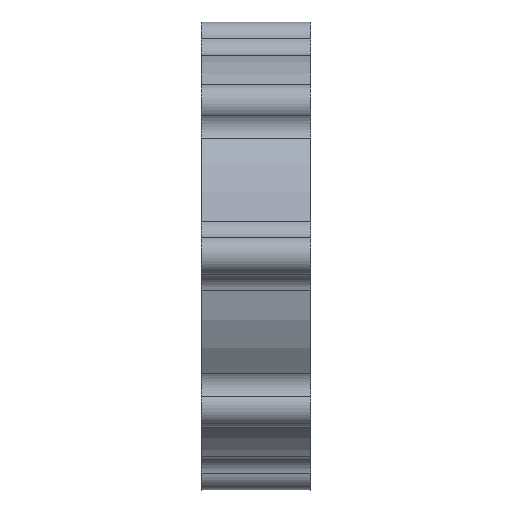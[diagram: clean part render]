
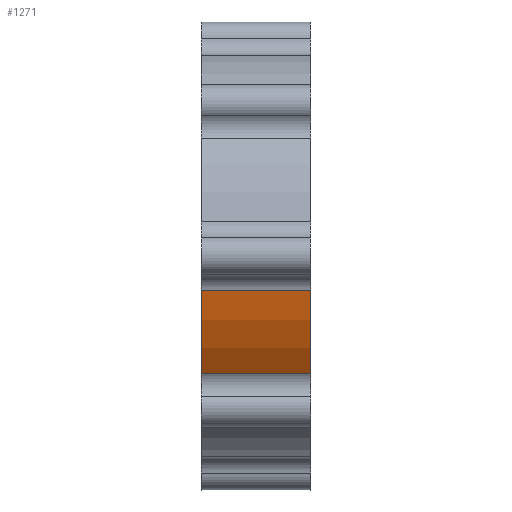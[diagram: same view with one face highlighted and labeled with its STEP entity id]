
A CAD part, left-side view. The second image highlights one B-rep face of the part: STEP entity #1271.
In plain terms, the highlighted cylindrical face has radius 54 mm (diameter 108 mm), a partial arc.
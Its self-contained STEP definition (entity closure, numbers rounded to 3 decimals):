
#54=CYLINDRICAL_SURFACE('',#1454,54.);
#159=FACE_OUTER_BOUND('',#243,.T.);
#243=EDGE_LOOP('',(#1033,#1034,#1035,#1036));
#323=LINE('',#2170,#388);
#328=LINE('',#2198,#393);
#388=VECTOR('',#1742,10.);
#393=VECTOR('',#1773,10.);
#501=CIRCLE('',#1455,54.);
#502=CIRCLE('',#1456,54.);
#600=VERTEX_POINT('',#2167);
#601=VERTEX_POINT('',#2169);
#610=VERTEX_POINT('',#2194);
#611=VERTEX_POINT('',#2196);
#746=EDGE_CURVE('',#601,#600,#323,.T.);
#760=EDGE_CURVE('',#611,#610,#328,.T.);
#788=EDGE_CURVE('',#600,#610,#501,.T.);
#789=EDGE_CURVE('',#601,#611,#502,.T.);
#1033=ORIENTED_EDGE('',*,*,#746,.T.);
#1034=ORIENTED_EDGE('',*,*,#788,.T.);
#1035=ORIENTED_EDGE('',*,*,#760,.F.);
#1036=ORIENTED_EDGE('',*,*,#789,.F.);
#1271=ADVANCED_FACE('',(#159),#54,.T.);
#1454=AXIS2_PLACEMENT_3D('',#2253,#1837,#1838);
#1455=AXIS2_PLACEMENT_3D('',#2254,#1839,#1840);
#1456=AXIS2_PLACEMENT_3D('',#2255,#1841,#1842);
#1742=DIRECTION('',(0.,1.,0.));
#1773=DIRECTION('',(0.,1.,0.));
#1837=DIRECTION('center_axis',(0.,-1.,0.));
#1838=DIRECTION('ref_axis',(1.,0.,0.));
#1839=DIRECTION('center_axis',(0.,-1.,0.));
#1840=DIRECTION('ref_axis',(1.,0.,0.));
#1841=DIRECTION('center_axis',(0.,-1.,0.));
#1842=DIRECTION('ref_axis',(1.,0.,0.));
#2167=CARTESIAN_POINT('',(-53.229,18.,-9.091));
#2169=CARTESIAN_POINT('',(-53.229,-11.,-9.091));
#2170=CARTESIAN_POINT('',(-53.229,0.,-9.091));
#2194=CARTESIAN_POINT('',(-44.067,18.,-31.21));
#2196=CARTESIAN_POINT('',(-44.067,-11.,-31.21));
#2198=CARTESIAN_POINT('',(-44.067,0.,-31.21));
#2253=CARTESIAN_POINT('Origin',(0.,3.5,0.));
#2254=CARTESIAN_POINT('Origin',(0.,18.,0.));
#2255=CARTESIAN_POINT('Origin',(0.,-11.,0.));
